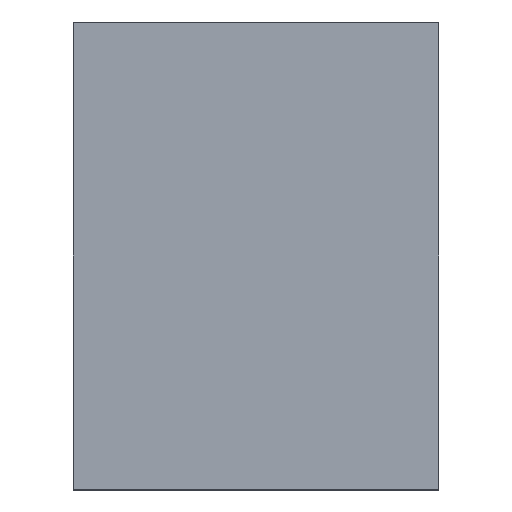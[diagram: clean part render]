
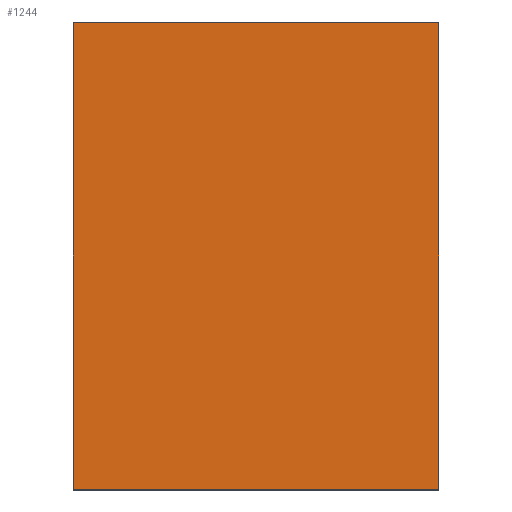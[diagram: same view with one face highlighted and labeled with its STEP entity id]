
A CAD part, left-side view. The second image highlights one B-rep face of the part: STEP entity #1244.
In plain terms, the highlighted planar face has unit normal (-1, 0, 0).
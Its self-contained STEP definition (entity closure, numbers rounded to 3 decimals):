
#2 = CARTESIAN_POINT ( 'NONE',  ( -875., -570., -364. ) ) ;
#96 = AXIS2_PLACEMENT_3D ( 'NONE', #3102, #3390, #1645 ) ;
#331 = EDGE_CURVE ( 'NONE', #2210, #3477, #3189, .T. ) ;
#668 = ORIENTED_EDGE ( 'NONE', *, *, #1468, .F. ) ;
#947 = VECTOR ( 'NONE', #1774, 1000. ) ;
#1063 = PLANE ( 'NONE',  #96 ) ;
#1122 = CARTESIAN_POINT ( 'NONE',  ( -875., -570., -365. ) ) ;
#1134 = VECTOR ( 'NONE', #1719, 1000. ) ;
#1244 = ADVANCED_FACE ( 'NONE', ( #3411 ), #1063, .T. ) ;
#1429 = CARTESIAN_POINT ( 'NONE',  ( -875., 0., -365. ) ) ;
#1468 = EDGE_CURVE ( 'NONE', #2210, #2123, #3452, .T. ) ;
#1487 = CARTESIAN_POINT ( 'NONE',  ( -875., -570., 364. ) ) ;
#1499 = ORIENTED_EDGE ( 'NONE', *, *, #2062, .T. ) ;
#1598 = VERTEX_POINT ( 'NONE', #1487 ) ;
#1645 = DIRECTION ( 'NONE',  ( 0., 0., 1. ) ) ;
#1719 = DIRECTION ( 'NONE',  ( 0., 0., 1. ) ) ;
#1774 = DIRECTION ( 'NONE',  ( 0., -1., 0. ) ) ;
#1784 = LINE ( 'NONE', #1122, #3508 ) ;
#2062 = EDGE_CURVE ( 'NONE', #1598, #2123, #3043, .T. ) ;
#2080 = CARTESIAN_POINT ( 'NONE',  ( -875., -570., -364. ) ) ;
#2091 = DIRECTION ( 'NONE',  ( 0., 1., 0. ) ) ;
#2123 = VERTEX_POINT ( 'NONE', #2743 ) ;
#2198 = VECTOR ( 'NONE', #2091, 1000. ) ;
#2210 = VERTEX_POINT ( 'NONE', #3352 ) ;
#2593 = DIRECTION ( 'NONE',  ( 0., 0., 1. ) ) ;
#2628 = EDGE_LOOP ( 'NONE', ( #668, #2668, #3799, #1499 ) ) ;
#2668 = ORIENTED_EDGE ( 'NONE', *, *, #331, .T. ) ;
#2743 = CARTESIAN_POINT ( 'NONE',  ( -875., 0., 364. ) ) ;
#3043 = LINE ( 'NONE', #3518, #2198 ) ;
#3102 = CARTESIAN_POINT ( 'NONE',  ( -875., -570., -365. ) ) ;
#3189 = LINE ( 'NONE', #2, #947 ) ;
#3267 = EDGE_CURVE ( 'NONE', #3477, #1598, #1784, .T. ) ;
#3352 = CARTESIAN_POINT ( 'NONE',  ( -875., 0., -364. ) ) ;
#3390 = DIRECTION ( 'NONE',  ( -1., 0., 0. ) ) ;
#3411 = FACE_OUTER_BOUND ( 'NONE', #2628, .T. ) ;
#3452 = LINE ( 'NONE', #1429, #1134 ) ;
#3477 = VERTEX_POINT ( 'NONE', #2080 ) ;
#3508 = VECTOR ( 'NONE', #2593, 1000. ) ;
#3518 = CARTESIAN_POINT ( 'NONE',  ( -875., -570., 364. ) ) ;
#3799 = ORIENTED_EDGE ( 'NONE', *, *, #3267, .T. ) ;
